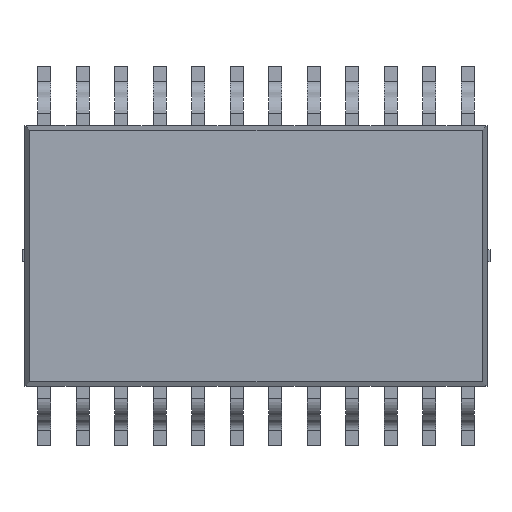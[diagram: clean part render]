
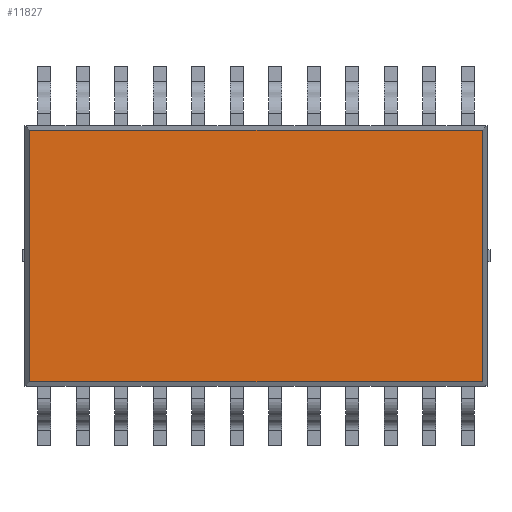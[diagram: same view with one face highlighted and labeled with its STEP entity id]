
A CAD part, top view. The second image highlights one B-rep face of the part: STEP entity #11827.
In plain terms, the highlighted planar face has unit normal (0, 0, 1).
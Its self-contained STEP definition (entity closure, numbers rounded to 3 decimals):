
#11 = CARTESIAN_POINT ( 'NONE',  ( 6.774, 1.932, 6.197 ) ) ;
#272 = ORIENTED_EDGE ( 'NONE', *, *, #340, .T. ) ;
#324 = DIRECTION ( 'NONE',  ( 0., -1., 0. ) ) ;
#340 = EDGE_CURVE ( 'Defeatured_0_52+Defeatured_0_51+Defeatured_0_50+Defeatured_0_48', #11687, #3133, #3273, .T. ) ;
#403 = CARTESIAN_POINT ( 'NONE',  ( 6.774, 6.255, 6.197 ) ) ;
#996 = LINE ( 'NONE', #403, #2991 ) ;
#1076 = PLANE ( 'NONE',  #9241 ) ;
#2158 = EDGE_CURVE ( 'Defeatured_0_52+Defeatured_0_48+Defeatured_0_51+Defeatured_0_49', #3133, #9647, #7997, .T. ) ;
#2514 = VECTOR ( 'NONE', #324, 1000. ) ;
#2951 = DIRECTION ( 'NONE',  ( 0., 0., 1. ) ) ;
#2991 = VECTOR ( 'NONE', #3223, 1000. ) ;
#3133 = VERTEX_POINT ( 'NONE', #11894 ) ;
#3178 = CARTESIAN_POINT ( 'NONE',  ( -0.872, 6.255, 6.197 ) ) ;
#3223 = DIRECTION ( 'NONE',  ( 0., 1., 0. ) ) ;
#3273 = LINE ( 'NONE', #9037, #6877 ) ;
#4259 = VERTEX_POINT ( 'NONE', #11 ) ;
#4444 = ORIENTED_EDGE ( 'NONE', *, *, #9923, .T. ) ;
#4628 = DIRECTION ( 'NONE',  ( 1., 0., 0. ) ) ;
#5492 = EDGE_LOOP ( 'NONE', ( #9944, #4444, #5708, #272 ) ) ;
#5510 = EDGE_CURVE ( 'Defeatured_0_52+Defeatured_0_50+Defeatured_0_49+Defeatured_0_51', #4259, #11687, #996, .T. ) ;
#5708 = ORIENTED_EDGE ( 'NONE', *, *, #5510, .T. ) ;
#6181 = DIRECTION ( 'NONE',  ( -1., 0., 0. ) ) ;
#6661 = CARTESIAN_POINT ( 'NONE',  ( -0.872, 1.932, 6.197 ) ) ;
#6877 = VECTOR ( 'NONE', #6181, 1000. ) ;
#7826 = DIRECTION ( 'NONE',  ( 1., 0., 0. ) ) ;
#7997 = LINE ( 'NONE', #3178, #2514 ) ;
#8571 = LINE ( 'NONE', #9671, #10870 ) ;
#9037 = CARTESIAN_POINT ( 'NONE',  ( -0.949, 6.178, 6.197 ) ) ;
#9241 = AXIS2_PLACEMENT_3D ( 'NONE', #11056, #2951, #4628 ) ;
#9647 = VERTEX_POINT ( 'NONE', #6661 ) ;
#9671 = CARTESIAN_POINT ( 'NONE',  ( -0.949, 1.932, 6.197 ) ) ;
#9784 = CARTESIAN_POINT ( 'NONE',  ( 6.774, 6.178, 6.197 ) ) ;
#9923 = EDGE_CURVE ( 'Defeatured_0_52+Defeatured_0_49+Defeatured_0_48+Defeatured_0_50', #9647, #4259, #8571, .T. ) ;
#9944 = ORIENTED_EDGE ( 'NONE', *, *, #2158, .T. ) ;
#10870 = VECTOR ( 'NONE', #7826, 1000. ) ;
#11056 = CARTESIAN_POINT ( 'NONE',  ( 3.601, 4.055, 6.197 ) ) ;
#11577 = FACE_OUTER_BOUND ( 'NONE', #5492, .T. ) ;
#11687 = VERTEX_POINT ( 'NONE', #9784 ) ;
#11827 = ADVANCED_FACE ( 'Defeatured_0_52', ( #11577 ), #1076, .T. ) ;
#11894 = CARTESIAN_POINT ( 'NONE',  ( -0.872, 6.178, 6.197 ) ) ;
